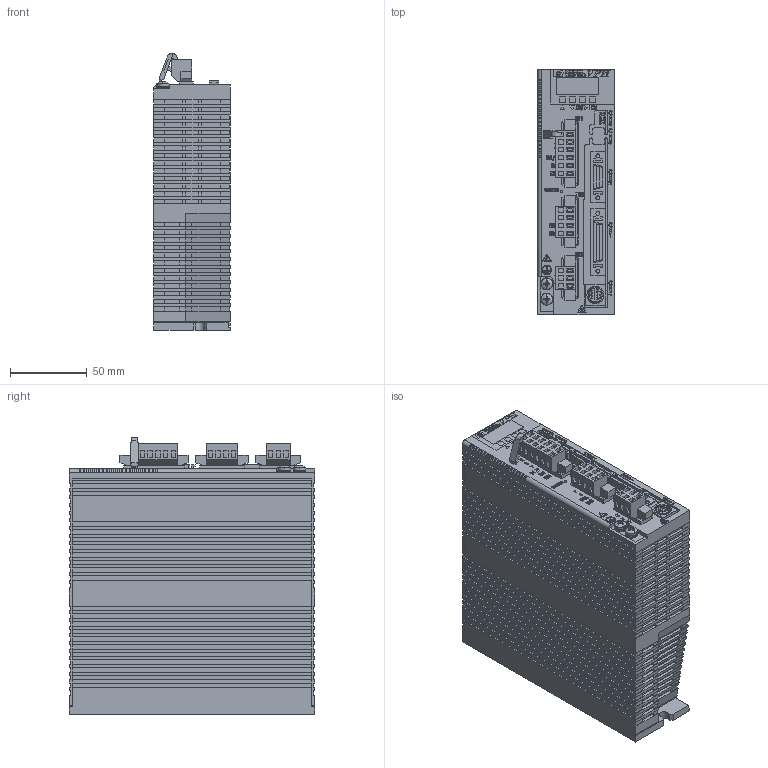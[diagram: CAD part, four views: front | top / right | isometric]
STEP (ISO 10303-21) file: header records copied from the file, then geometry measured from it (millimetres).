
FILE_DESCRIPTION (( 'STEP AP214' ), '1' );
FILE_NAME ('NCR-HA_Series(051-401)#SE-70962B.STEP', '2020-03-13T05:10:58', ( '' ), ( '' ), 'SwSTEP 2.0', 'SolidWorks 2018', '' );
FILE_SCHEMA (( 'AUTOMOTIVE_DESIGN' ));
Length unit declared in the file: millimetre
Products named in the file (1): NCR-HA_Series(051-401)#SE-70962B
Bounding box: 50 x 160 x 180.47 mm (x, y, z)
Volume: 1237194.2 mm3; surface area: 126842 mm2
Topology: 5 solids, 5 shells, 3792 faces, 10403 edges, 6890 vertices
Faces by surface type: plane 3084, bspline 424, cylinder 248, cone 24, torus 8, sphere 4
Entity records: 140643 total; most frequent: CARTESIAN_POINT 43544, ORIENTED_EDGE 20798, DIRECTION 16903, EDGE_CURVE 10399, LINE 8853, VECTOR 8853, VERTEX_POINT 6890, EDGE_LOOP 4069
